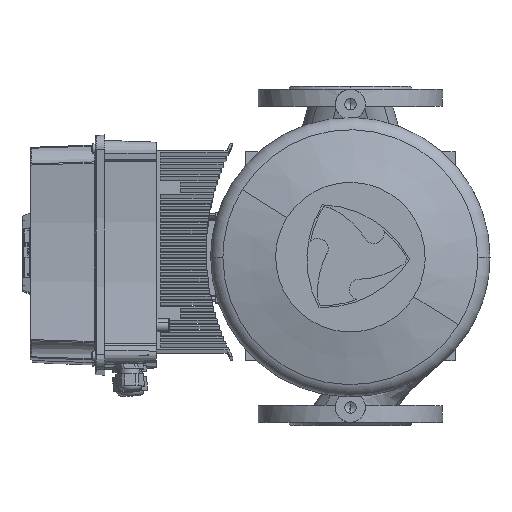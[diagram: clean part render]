
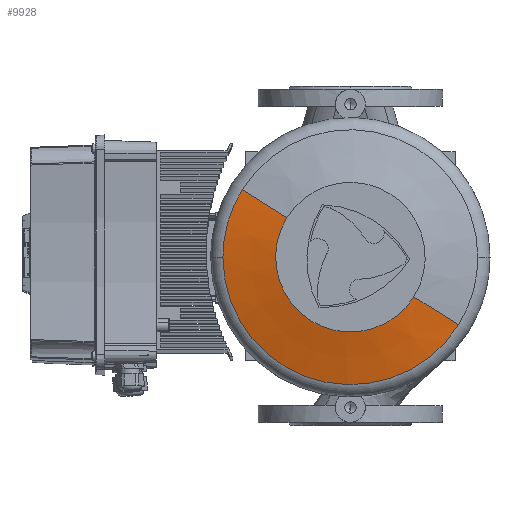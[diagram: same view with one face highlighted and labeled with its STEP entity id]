
A CAD part, top view. The second image highlights one B-rep face of the part: STEP entity #9928.
In plain terms, the highlighted conical face has half-angle 75 degrees and reference radius 101.423 mm.
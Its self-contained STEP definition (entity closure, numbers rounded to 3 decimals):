
#9928=ADVANCED_FACE('',(#21270),#21271,.T.);
#9944=EDGE_CURVE('',#21284,#21298,#21299,.T.);
#10118=EDGE_CURVE('',#21298,#21280,#21532,.T.);
#10120=EDGE_CURVE('',#21288,#21287,#21534,.T.);
#21270=FACE_OUTER_BOUND('',#41946,.T.);
#21271=CONICAL_SURFACE('',#41947,101.423,1.309);
#21280=VERTEX_POINT('',#41957);
#21284=VERTEX_POINT('',#41962);
#21287=VERTEX_POINT('',#41966);
#21288=VERTEX_POINT('',#41967);
#21298=VERTEX_POINT('',#41980);
#21299=CIRCLE('',#41981,127.845);
#21532=CIRCLE('',#42339,127.845);
#21534=CIRCLE('',#42342,75.0);
#41946=EDGE_LOOP('',(#64418,#64419,#64420,#64421,#64422));
#41947=AXIS2_PLACEMENT_3D('',#64423,#64424,#64425);
#41957=CARTESIAN_POINT('',(-92.16,-294.051,183.268));
#41962=CARTESIAN_POINT('',(-309.09,-158.701,183.268));
#41966=CARTESIAN_POINT('',(-136.995,-266.077,197.428));
#41967=CARTESIAN_POINT('',(-264.255,-186.675,197.428));
#41980=CARTESIAN_POINT('',(-328.47,-226.376,183.268));
#41981=AXIS2_PLACEMENT_3D('',#64456,#64457,#64458);
#42339=AXIS2_PLACEMENT_3D('',#64641,#64642,#64643);
#42342=AXIS2_PLACEMENT_3D('',#64644,#64645,#64646);
#64418=ORIENTED_EDGE('',*,*,#96654,.T.);
#64419=ORIENTED_EDGE('',*,*,#10120,.F.);
#64420=ORIENTED_EDGE('',*,*,#96655,.T.);
#64421=ORIENTED_EDGE('',*,*,#9944,.T.);
#64422=ORIENTED_EDGE('',*,*,#10118,.T.);
#64423=CARTESIAN_POINT('',(-200.625,-226.376,190.348));
#64424=DIRECTION('',(-0.0,-0.0,-1.0));
#64425=DIRECTION('',(0.848,-0.529,0.0));
#64456=CARTESIAN_POINT('',(-200.625,-226.376,183.268));
#64457=DIRECTION('',(0.0,0.0,1.0));
#64458=DIRECTION('',(0.848,-0.529,0.0));
#64641=CARTESIAN_POINT('',(-200.625,-226.376,183.268));
#64642=DIRECTION('',(0.0,0.0,1.0));
#64643=DIRECTION('',(0.848,-0.529,0.0));
#64644=CARTESIAN_POINT('',(-200.625,-226.376,197.428));
#64645=DIRECTION('',(0.0,0.0,1.0));
#64646=DIRECTION('',(0.848,-0.529,0.0));
#96654=EDGE_CURVE('',#21280,#21287,#110047,.T.);
#96655=EDGE_CURVE('',#21288,#21284,#110048,.T.);
#110047=LINE('',#127547,#127548);
#110048=LINE('',#127549,#127550);
#127547=CARTESIAN_POINT('',(-114.578,-280.064,190.348));
#127548=VECTOR('',#154192,1.0);
#127549=CARTESIAN_POINT('',(-286.672,-172.688,190.348));
#127550=VECTOR('',#154193,1.0);
#154192=DIRECTION('',(-0.819,0.511,0.259));
#154193=DIRECTION('',(-0.819,0.511,-0.259));
